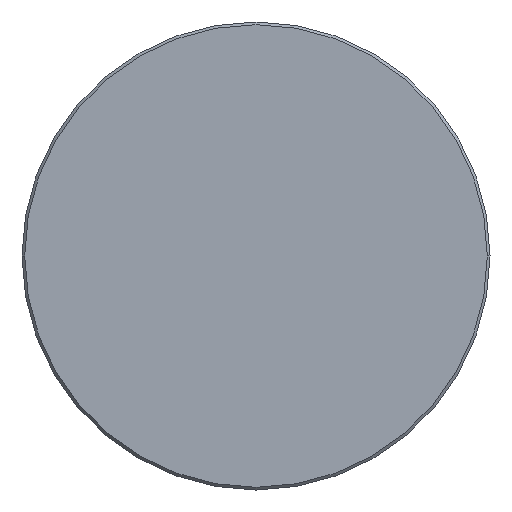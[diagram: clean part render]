
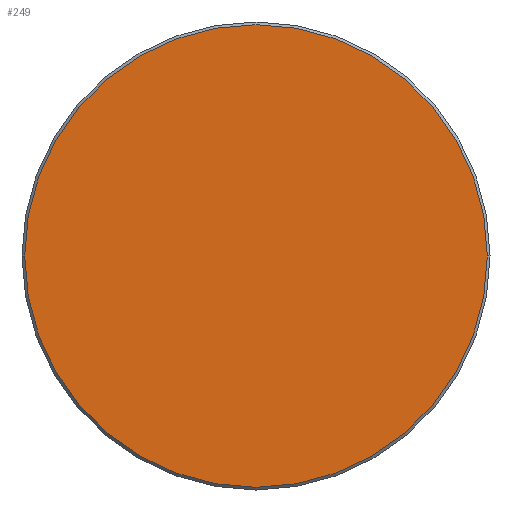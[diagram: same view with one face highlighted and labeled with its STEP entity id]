
A CAD part, left-side view. The second image highlights one B-rep face of the part: STEP entity #249.
In plain terms, the highlighted planar face has unit normal (-1, 0, 0).
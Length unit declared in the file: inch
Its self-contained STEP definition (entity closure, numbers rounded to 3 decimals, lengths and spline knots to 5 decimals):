
#57 = AXIS2_PLACEMENT_3D ( 'NONE', #324, #223, #219 ) ;
#68 = DIRECTION ( 'NONE',  ( 0., -1., 0. ) ) ;
#70 = PLANE ( 'NONE',  #329 ) ;
#72 = CIRCLE ( 'NONE', #57, 0.33975 ) ;
#151 = CIRCLE ( 'NONE', #191, 0.33975 ) ;
#153 = CARTESIAN_POINT ( 'NONE',  ( 0., 0., 0. ) ) ;
#155 = DIRECTION ( 'NONE',  ( -1., 0., 0. ) ) ;
#158 = FACE_OUTER_BOUND ( 'NONE', #356, .T. ) ;
#177 = CARTESIAN_POINT ( 'NONE',  ( 0., 0.33975, 0. ) ) ;
#182 = EDGE_CURVE ( 'NONE', #259, #186, #151, .T. ) ;
#186 = VERTEX_POINT ( 'NONE', #177 ) ;
#191 = AXIS2_PLACEMENT_3D ( 'NONE', #293, #347, #213 ) ;
#213 = DIRECTION ( 'NONE',  ( 0., -1., 0. ) ) ;
#219 = DIRECTION ( 'NONE',  ( 0., -1., 0. ) ) ;
#220 = ORIENTED_EDGE ( 'NONE', *, *, #285, .T. ) ;
#223 = DIRECTION ( 'NONE',  ( -1., 0., 0. ) ) ;
#249 = ADVANCED_FACE ( 'NONE', ( #158 ), #70, .T. ) ;
#259 = VERTEX_POINT ( 'NONE', #354 ) ;
#285 = EDGE_CURVE ( 'NONE', #186, #259, #72, .T. ) ;
#293 = CARTESIAN_POINT ( 'NONE',  ( 0., 0., 0. ) ) ;
#324 = CARTESIAN_POINT ( 'NONE',  ( 0., 0., 0. ) ) ;
#329 = AXIS2_PLACEMENT_3D ( 'NONE', #153, #155, #68 ) ;
#347 = DIRECTION ( 'NONE',  ( -1., 0., 0. ) ) ;
#354 = CARTESIAN_POINT ( 'NONE',  ( 0., -0.33975, 0. ) ) ;
#356 = EDGE_LOOP ( 'NONE', ( #220, #372 ) ) ;
#372 = ORIENTED_EDGE ( 'NONE', *, *, #182, .T. ) ;
